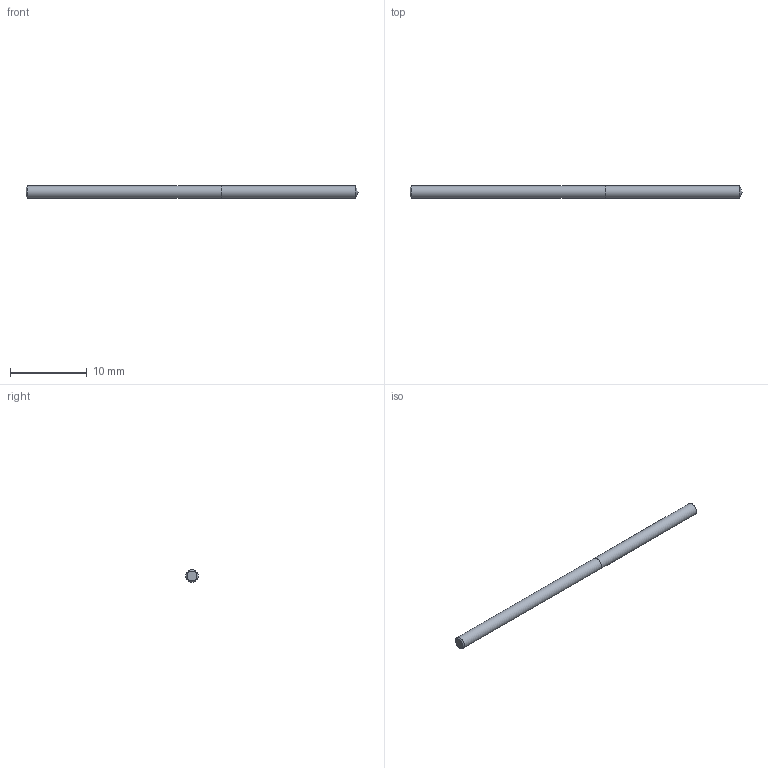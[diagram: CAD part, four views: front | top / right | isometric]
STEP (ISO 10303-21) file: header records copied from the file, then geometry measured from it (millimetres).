
FILE_DESCRIPTION (( 'STEP AP214' ), '1' );
FILE_NAME ('03-2394.STEP', '2022-06-03T07:10:56', ( 'USER' ), ( '' ), 'SwSTEP 2.0', 'SolidWorks 2018', '' );
FILE_SCHEMA (( 'AUTOMOTIVE_DESIGN' ));
Length unit declared in the file: inch
Products named in the file (1): 03-2394
Bounding box: 43.2 x 1.61 x 1.61 mm (x, y, z)
Volume: 87.7 mm3; surface area: 225 mm2
Topology: 2 solids, 2 shells, 7 faces, 11 edges, 7 vertices
Faces by surface type: plane 3, cylinder 2, cone 2
Full cylindrical faces by diameter (mm): 1.613 x2
Entity records: 214 total; most frequent: DIRECTION 26, CARTESIAN_POINT 18, AXIS2_PLACEMENT_3D 13, ORIENTED_EDGE 10, EDGE_LOOP 10, FACE_OUTER_BOUND 9, LENGTH_MEASURE_WITH_UNIT 7, UNCERTAINTY_MEASURE_WITH_UNIT 7
